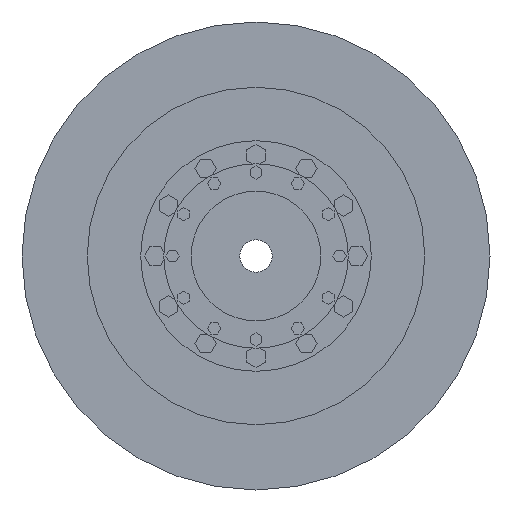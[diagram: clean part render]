
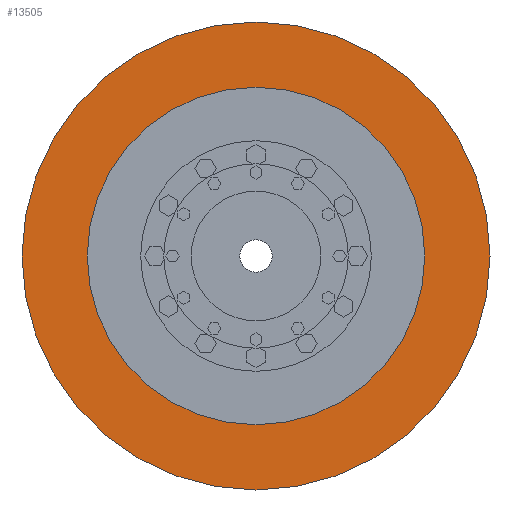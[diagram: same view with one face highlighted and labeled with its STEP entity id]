
A CAD part, left-side view. The second image highlights one B-rep face of the part: STEP entity #13505.
In plain terms, the highlighted planar face has unit normal (-1, 0, 0).
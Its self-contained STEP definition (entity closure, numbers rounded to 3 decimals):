
#13302=CARTESIAN_POINT('',(-47.5,0.,0.));
#13303=DIRECTION('',(-1.,0.,0.));
#13304=DIRECTION('',(0.,1.,0.));
#13305=AXIS2_PLACEMENT_3D('',#13302,#13303,#13304);
#13307=CARTESIAN_POINT('',(-47.5,0.,0.));
#13308=DIRECTION('',(1.,0.,0.));
#13309=DIRECTION('',(0.,1.,0.));
#13310=AXIS2_PLACEMENT_3D('',#13307,#13308,#13309);
#13312=CARTESIAN_POINT('',(-47.5,0.,0.));
#13313=DIRECTION('',(1.,0.,0.));
#13314=DIRECTION('',(0.,1.,0.));
#13315=AXIS2_PLACEMENT_3D('',#13312,#13313,#13314);
#13325=CARTESIAN_POINT('',(-47.5,0.,0.));
#13326=DIRECTION('',(-1.,0.,0.));
#13327=DIRECTION('',(0.,1.,0.));
#13328=AXIS2_PLACEMENT_3D('',#13325,#13326,#13327);
#13348=CARTESIAN_POINT('',(-47.5,146.4,0.));
#13350=VERTEX_POINT('',#13348);
#13360=CARTESIAN_POINT('',(-47.5,-146.4,0.));
#13362=VERTEX_POINT('',#13360);
#13365=CARTESIAN_POINT('',(-47.5,203.,0.));
#13367=VERTEX_POINT('',#13365);
#13369=CARTESIAN_POINT('',(-47.5,-203.,0.));
#13371=VERTEX_POINT('',#13369);
#13490=CARTESIAN_POINT('',(-47.5,0.,0.));
#13491=DIRECTION('',(1.,0.,0.));
#13492=DIRECTION('',(0.,-1.,0.));
#13493=AXIS2_PLACEMENT_3D('',#13490,#13491,#13492);
#13494=PLANE('',#13493);
#13495=ORIENTED_EDGE('',*,*,#13483,.F.);
#13496=ORIENTED_EDGE('',*,*,#13472,.T.);
#13497=EDGE_LOOP('',(#13495,#13496));
#13498=FACE_OUTER_BOUND('',#13497,.F.);
#13500=ORIENTED_EDGE('',*,*,#13499,.F.);
#13502=ORIENTED_EDGE('',*,*,#13501,.T.);
#13503=EDGE_LOOP('',(#13500,#13502));
#13504=FACE_BOUND('',#13503,.F.);
#13505=ADVANCED_FACE('',(#13498,#13504),#13494,.F.);
#13306=CIRCLE('',#13305,203.);
#13311=CIRCLE('',#13310,203.);
#13316=CIRCLE('',#13315,146.4);
#13329=CIRCLE('',#13328,146.4);
#13472=EDGE_CURVE('',#13367,#13371,#13311,.T.);
#13483=EDGE_CURVE('',#13367,#13371,#13306,.T.);
#13499=EDGE_CURVE('',#13350,#13362,#13316,.T.);
#13501=EDGE_CURVE('',#13350,#13362,#13329,.T.);
